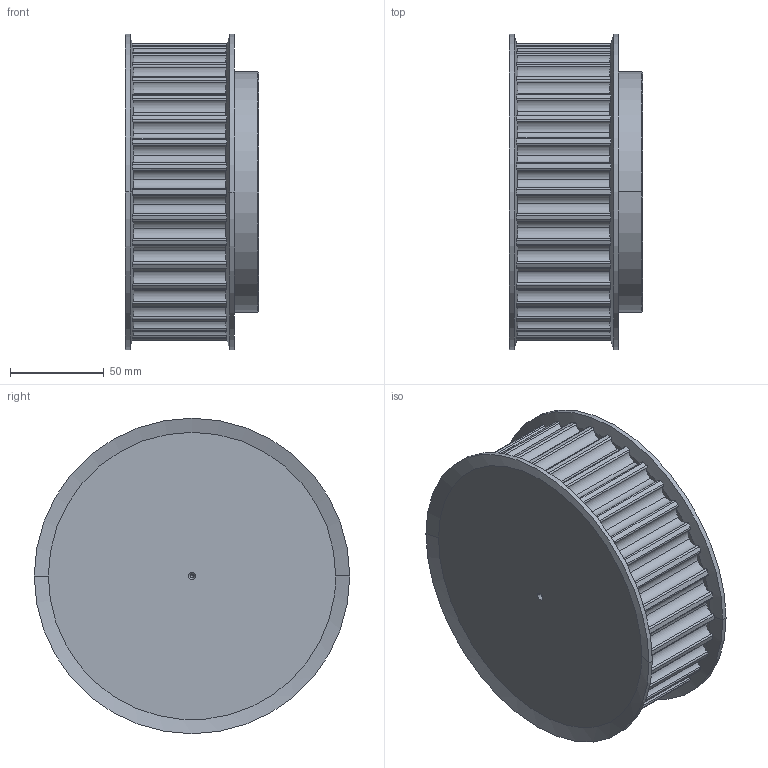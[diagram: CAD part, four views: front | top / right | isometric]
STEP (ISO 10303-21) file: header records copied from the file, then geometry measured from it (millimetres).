
FILE_DESCRIPTION(('STEP AP203'),'1');
FILE_NAME('36_-_14_m_40.stp','2018-11-21T13:00:21',('TraceParts'),('TraceParts S.A.'),'Spatial InterOp 3D',' ',' ');
FILE_SCHEMA(('CONFIG_CONTROL_DESIGN'));
Length unit declared in the file: millimetre
Products named in the file (1): 1
Bounding box: 71.01 x 168 x 168 mm (x, y, z)
Volume: 1199037.4 mm3; surface area: 93127.1 mm2
Topology: 1 solids, 1 shells, 283 faces, 826 edges, 544 vertices
Faces by surface type: cylinder 190, plane 75, cone 18
Entity records: 10930 total; most frequent: CARTESIAN_POINT 3666, ORIENTED_EDGE 1644, DIRECTION 1428, EDGE_CURVE 822, AXIS2_PLACEMENT_3D 610, VERTEX_POINT 544, CIRCLE 326, B_SPLINE_CURVE_WITH_KNOTS 288
